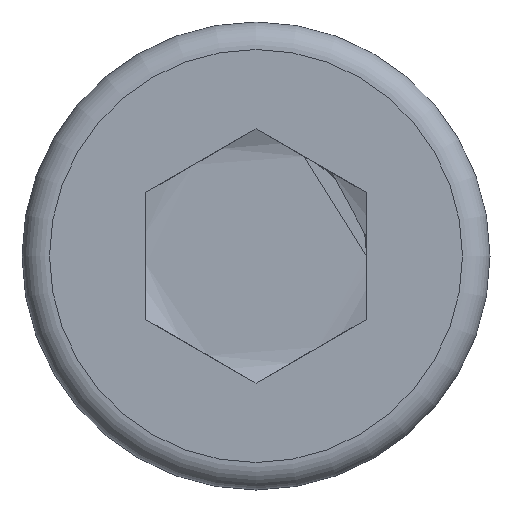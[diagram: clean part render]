
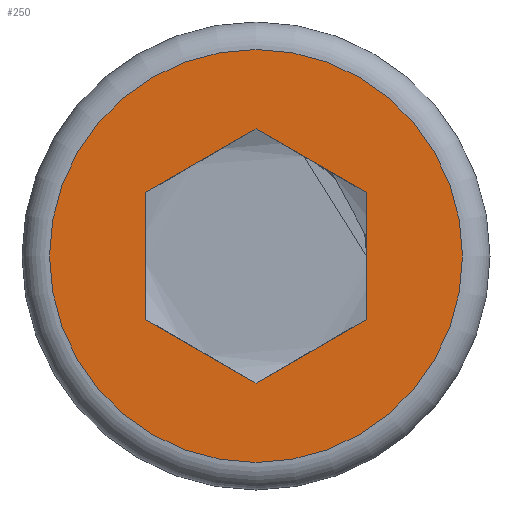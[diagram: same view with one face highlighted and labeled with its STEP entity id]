
A CAD part, left-side view. The second image highlights one B-rep face of the part: STEP entity #250.
In plain terms, the highlighted planar face has unit normal (-1, 0, 0).
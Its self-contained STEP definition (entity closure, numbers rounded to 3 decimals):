
#25=FACE_BOUND('',#92,.T.);
#28=PLANE('',#300);
#37=LINE('',#415,#53);
#38=LINE('',#417,#54);
#39=LINE('',#419,#55);
#40=LINE('',#421,#56);
#41=LINE('',#423,#57);
#42=LINE('',#424,#58);
#53=VECTOR('',#351,10.);
#54=VECTOR('',#352,10.);
#55=VECTOR('',#353,10.);
#56=VECTOR('',#354,10.);
#57=VECTOR('',#355,10.);
#58=VECTOR('',#356,10.);
#75=FACE_OUTER_BOUND('',#91,.T.);
#91=EDGE_LOOP('',(#196));
#92=EDGE_LOOP('',(#197,#198,#199,#200,#201,#202));
#112=CIRCLE('',#299,3.75);
#122=VERTEX_POINT('',#409);
#123=VERTEX_POINT('',#413);
#124=VERTEX_POINT('',#414);
#125=VERTEX_POINT('',#416);
#126=VERTEX_POINT('',#418);
#127=VERTEX_POINT('',#420);
#128=VERTEX_POINT('',#422);
#150=EDGE_CURVE('',#122,#122,#112,.T.);
#151=EDGE_CURVE('',#123,#124,#37,.T.);
#152=EDGE_CURVE('',#124,#125,#38,.T.);
#153=EDGE_CURVE('',#125,#126,#39,.T.);
#154=EDGE_CURVE('',#126,#127,#40,.T.);
#155=EDGE_CURVE('',#127,#128,#41,.T.);
#156=EDGE_CURVE('',#128,#123,#42,.T.);
#196=ORIENTED_EDGE('',*,*,#150,.F.);
#197=ORIENTED_EDGE('',*,*,#151,.T.);
#198=ORIENTED_EDGE('',*,*,#152,.T.);
#199=ORIENTED_EDGE('',*,*,#153,.T.);
#200=ORIENTED_EDGE('',*,*,#154,.T.);
#201=ORIENTED_EDGE('',*,*,#155,.T.);
#202=ORIENTED_EDGE('',*,*,#156,.T.);
#250=ADVANCED_FACE('',(#75,#25),#28,.T.);
#299=AXIS2_PLACEMENT_3D('',#411,#347,#348);
#300=AXIS2_PLACEMENT_3D('',#412,#349,#350);
#347=DIRECTION('center_axis',(1.,0.,0.));
#348=DIRECTION('ref_axis',(0.,-1.,0.));
#349=DIRECTION('center_axis',(-1.,0.,0.));
#350=DIRECTION('ref_axis',(0.,0.,1.));
#351=DIRECTION('',(0.,0.,1.));
#352=DIRECTION('',(0.,-0.866,0.5));
#353=DIRECTION('',(0.,-0.866,-0.5));
#354=DIRECTION('',(0.,0.,-1.));
#355=DIRECTION('',(0.,0.866,-0.5));
#356=DIRECTION('',(0.,0.866,0.5));
#409=CARTESIAN_POINT('',(-5.,0.,3.75));
#411=CARTESIAN_POINT('Origin',(-5.,0.,0.));
#412=CARTESIAN_POINT('Origin',(-5.,3.28,0.));
#413=CARTESIAN_POINT('',(-5.,2.,-1.155));
#414=CARTESIAN_POINT('',(-5.,2.,1.155));
#415=CARTESIAN_POINT('',(-5.,2.,0.577));
#416=CARTESIAN_POINT('',(-5.,0.,2.309));
#417=CARTESIAN_POINT('',(-5.,0.5,2.021));
#418=CARTESIAN_POINT('',(-5.,-2.,1.155));
#419=CARTESIAN_POINT('',(-5.,-1.5,1.443));
#420=CARTESIAN_POINT('',(-5.,-2.,-1.155));
#421=CARTESIAN_POINT('',(-5.,-2.,-0.577));
#422=CARTESIAN_POINT('',(-5.,0.,-2.309));
#423=CARTESIAN_POINT('',(-5.,-0.5,-2.021));
#424=CARTESIAN_POINT('',(-5.,1.5,-1.443));
